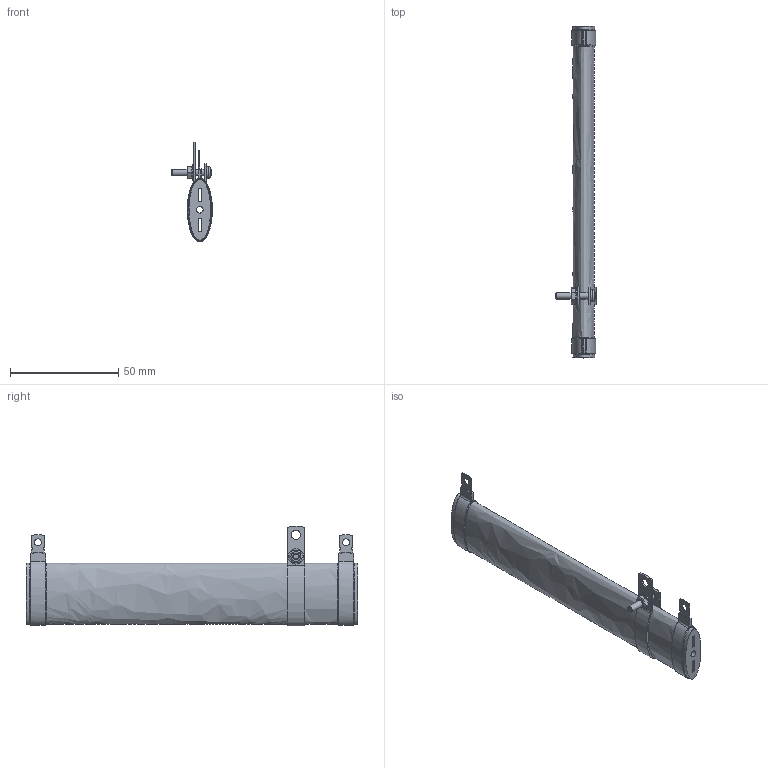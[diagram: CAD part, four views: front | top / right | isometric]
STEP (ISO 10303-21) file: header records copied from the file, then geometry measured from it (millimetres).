
FILE_DESCRIPTION(/* description */ (''),/* implementation_level */ '2;1');
FILE_NAME(/* name */ 'C:\_Vault\Dati\CATALOGO\RCE\RCER-RSER 31-91\3D\CER0091.stp',/* time_stamp */ '2014-01-22T16:24:49+01:00',/* author */ ('stefano'),/* organization */ (''),/* preprocessor_version */ 'ST-DEVELOPER v15.2',/* originating_system */ 'Autodesk Inventor 2014',/* authorisation */ '');
FILE_SCHEMA (('AUTOMOTIVE_DESIGN { 1 0 10303 214 3 1 1 }'));
Length unit declared in the file: millimetre
Products named in the file (1): CER0091
Bounding box: 18.8 x 153 x 46 mm (x, y, z)
Volume: 29635.9 mm3; surface area: 18254.5 mm2
Topology: 125 solids, 125 shells, 946 faces, 1951 edges, 1200 vertices
Faces by surface type: plane 723, bspline 154, cylinder 39, cone 16, torus 13, sphere 1
Full cylindrical faces by diameter (mm): 2.729 x1, 3 x2, 3.1 x1, 3.2 x3, 4.2 x3, 7 x1
Entity records: 27643 total; most frequent: CARTESIAN_POINT 7108, ORIENTED_EDGE 4096, DIRECTION 3944, EDGE_CURVE 1924, AXIS2_PLACEMENT_3D 1343, LINE 1258, VECTOR 1258, VERTEX_POINT 1197
